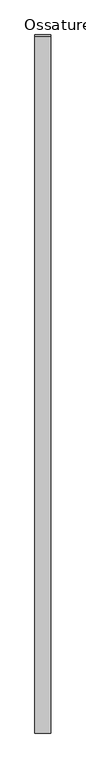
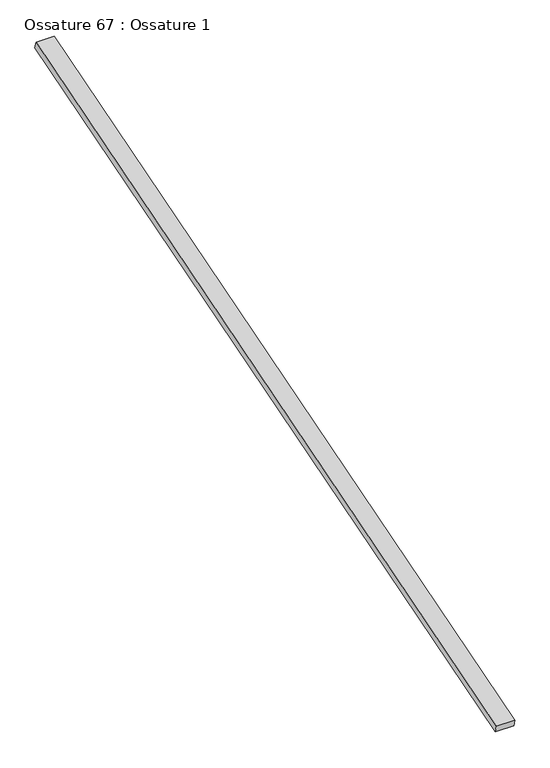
"""IFC4 building model written with IfcOpenShell, lengths in millimetres: beam geometry, Ossature 67 : Ossature 1."""

from ifc_helpers import new_model, si_unit, frame, origin, place, context, project, spatial, polyline, outline, extrude, source, transform, mapped, element, save


def ossature_67_ossature_1_ea1c27ec(model_context):
    return source(origin(), model_context, "Body", "SweptSolid", [
        extrude(outline(polyline([(0.0, 0.0), (0.0, -4543.0299679), (-100.0, -4543.0299679), (-100.0, 0.0), (0.0, 0.0)])), frame((16248.2466393, -833.3913565, 8153.6336115), z_axis=(0.0, -0.28734788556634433, 0.9578262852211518), x_axis=(-1.0, 0.0, 0.0)), (0.0, 0.0, 1.0), 40.0),
    ])


if __name__ == "__main__":
    model = new_model("IFC4")
    model_context = context("Model", 3, world=origin())
    ifc_project = project(units=[si_unit("LENGTHUNIT", "METRE", prefix="MILLI")], contexts=[model_context])
    site = spatial("IfcSite", under=ifc_project)
    building = spatial("IfcBuilding", under=site)
    placement = place(None, origin())
    ossature_67_ossature_1_shape = ossature_67_ossature_1_ea1c27ec(model_context)
    element("IfcBeam", 1, ObjectType="Ossature 67 : Ossature 1", at=placement, inside=building, context=model_context, shape_type="MappedRepresentation", body=[
        mapped(ossature_67_ossature_1_shape, transform((0.0, 0.0, 0.0), x_axis=(1.0, 0.0, 0.0), y_axis=(0.0, 1.0, 0.0), z_axis=(0.0, 0.0, 1.0))),
    ])
    save(model, "model.ifc")
